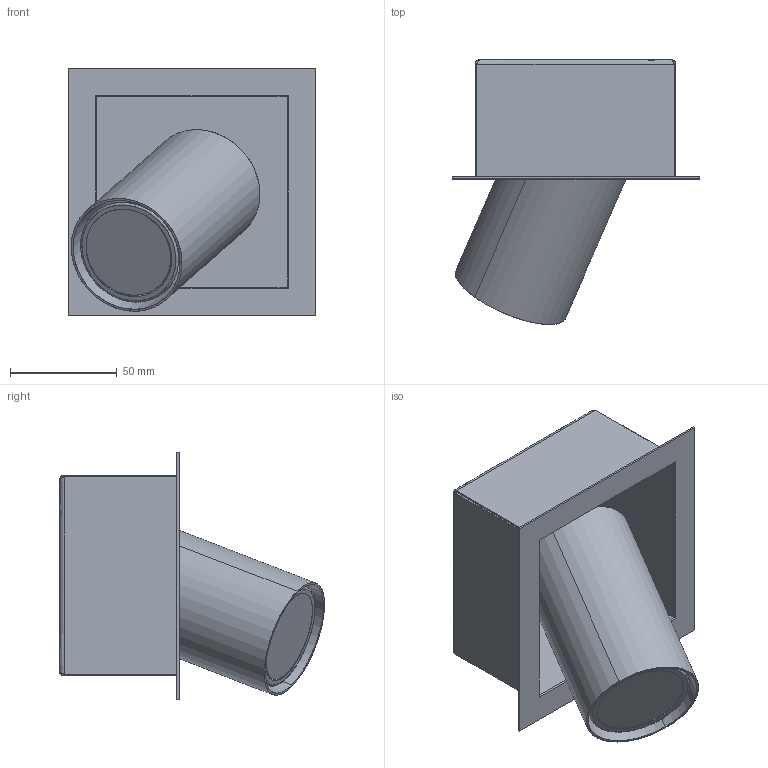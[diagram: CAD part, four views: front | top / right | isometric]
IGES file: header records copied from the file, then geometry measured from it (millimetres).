
Start section: SolidWorks IGES file using analytic representation for surfaces
Global section: file name: Z:\Modele 3D_WWW\_KOLEKCJE_WWW\EYE-MOD-8936-8937-WWW\EYE-MOD-8936-8937.IGS; native system: SolidWorks 2020; preprocessor: SolidWorks 2020; author: gabriela.tworek; date: 201221.161716; units: millimetre
Bounding box: 116 x 124.05 x 116 mm (x, y, z)
Surface area: 114734 mm2 (no closed solid volume)
Topology: 0 solids, 0 shells, 76 faces, 1053 edges, 1053 vertices
Faces by surface type: bspline 58, revolution 18
